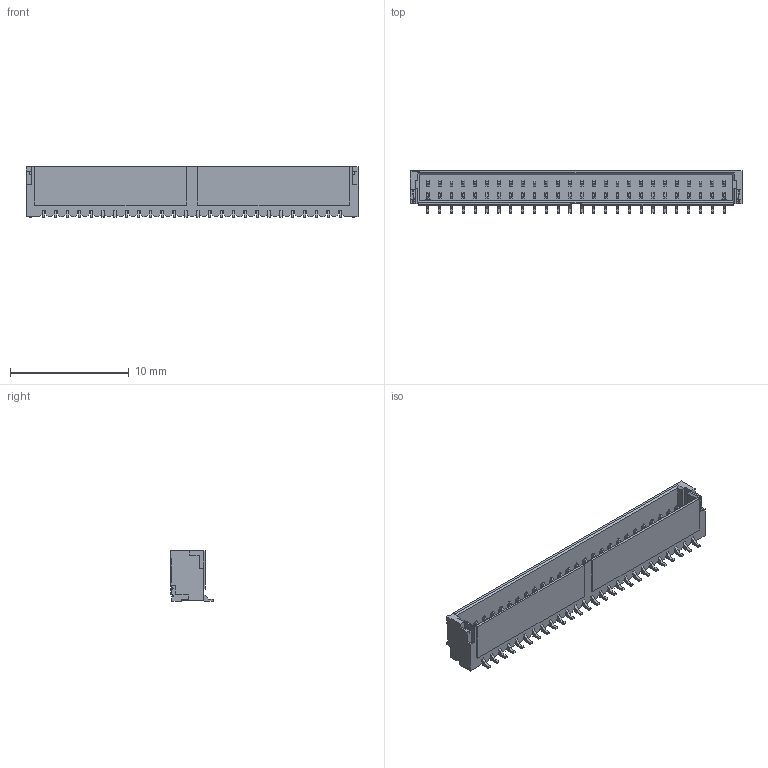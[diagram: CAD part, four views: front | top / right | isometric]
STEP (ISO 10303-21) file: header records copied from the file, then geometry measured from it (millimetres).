
FILE_DESCRIPTION((''),'2;1');
FILE_NAME('26-1','2022-04-23T',('k94269'),(''),'PRO/ENGINEER BY PARAMETRIC TECHNOLOGY CORPORATION, 2015070','PRO/ENGINEER BY PARAMETRIC TECHNOLOGY CORPORATION, 2015070','');
FILE_SCHEMA(('CONFIG_CONTROL_DESIGN','SHAPE_APPEARANCE_LAYERS_GROUPS'));
Length unit declared in the file: millimetre
Products named in the file (1): 26-1
Bounding box: 28 x 3.6 x 4.3 mm (x, y, z)
Volume: 152.8 mm3; surface area: 848.4 mm2
Topology: 1 solids, 1 shells, 1591 faces, 5202 edges, 3329 vertices
Faces by surface type: plane 1476, cylinder 115
Entity records: 56430 total; most frequent: CARTESIAN_POINT 10262, ORIENTED_EDGE 10164, DIRECTION 8574, EDGE_CURVE 5082, VECTOR 4812, LINE 4812, VERTEX_POINT 3209, AXIS2_PLACEMENT_3D 1881
